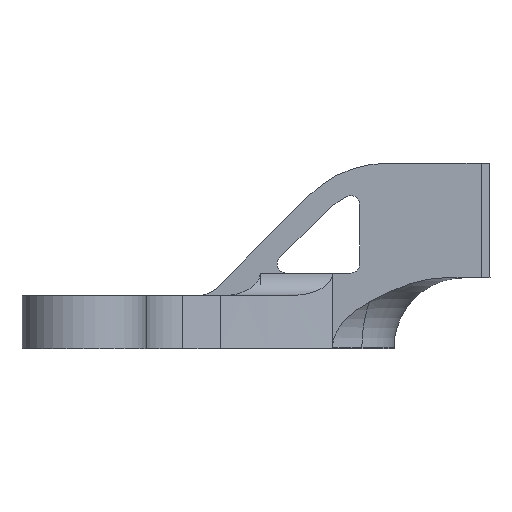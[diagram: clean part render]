
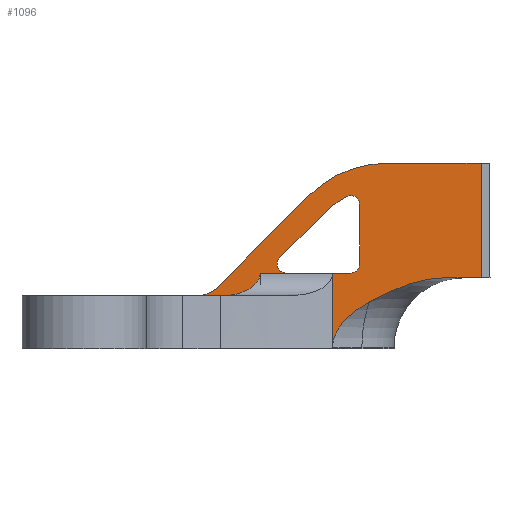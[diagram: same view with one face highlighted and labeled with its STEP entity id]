
A CAD part, front view. The second image highlights one B-rep face of the part: STEP entity #1096.
In plain terms, the highlighted planar face has unit normal (0, -1, 0).
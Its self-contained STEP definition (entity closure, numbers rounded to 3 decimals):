
#46=FACE_BOUND('',#359,.T.);
#83=LINE('',#1768,#186);
#92=LINE('',#1787,#195);
#97=LINE('',#1809,#200);
#100=LINE('',#1816,#203);
#101=LINE('',#1818,#204);
#102=LINE('',#1820,#205);
#103=LINE('',#1831,#206);
#104=LINE('',#1835,#207);
#105=LINE('',#1839,#208);
#106=LINE('',#1843,#209);
#107=LINE('',#1849,#210);
#186=VECTOR('',#1374,10.);
#195=VECTOR('',#1391,10.);
#200=VECTOR('',#1414,10.);
#203=VECTOR('',#1421,10.);
#204=VECTOR('',#1422,10.);
#205=VECTOR('',#1423,10.);
#206=VECTOR('',#1424,10.);
#207=VECTOR('',#1427,10.);
#208=VECTOR('',#1430,10.);
#209=VECTOR('',#1433,10.);
#210=VECTOR('',#1438,10.);
#267=PLANE('',#1203);
#298=FACE_OUTER_BOUND('',#358,.T.);
#358=EDGE_LOOP('',(#859,#860,#861,#862,#863,#864,#865,#866,#867,#868,#869,
#870));
#359=EDGE_LOOP('',(#871,#872,#873,#874,#875,#876,#877));
#440=CIRCLE('',#1204,6.25);
#441=CIRCLE('',#1205,1.6);
#442=CIRCLE('',#1206,0.5);
#443=CIRCLE('',#1207,4.934);
#444=CIRCLE('',#1208,0.5);
#445=CIRCLE('',#1209,0.5);
#464=B_SPLINE_CURVE_WITH_KNOTS('',3,(#1633,#1634,#1635,#1636,#1637,#1638,
#1639,#1640,#1641,#1642),.UNSPECIFIED.,.F.,.F.,(4,2,2,2,4),(1.861,
1.985,2.109,2.251,2.286),
 .UNSPECIFIED.);
#466=B_SPLINE_CURVE_WITH_KNOTS('',3,(#1821,#1822,#1823,#1824,#1825,#1826,
#1827,#1828,#1829,#1830),.UNSPECIFIED.,.F.,.F.,(4,2,2,2,4),(4.214,
4.266,4.435,4.493,4.545),
 .UNSPECIFIED.);
#471=VERTEX_POINT('',#1630);
#472=VERTEX_POINT('',#1632);
#495=VERTEX_POINT('',#1691);
#527=VERTEX_POINT('',#1765);
#528=VERTEX_POINT('',#1767);
#534=VERTEX_POINT('',#1785);
#542=VERTEX_POINT('',#1807);
#544=VERTEX_POINT('',#1815);
#545=VERTEX_POINT('',#1817);
#546=VERTEX_POINT('',#1819);
#547=VERTEX_POINT('',#1832);
#548=VERTEX_POINT('',#1834);
#549=VERTEX_POINT('',#1837);
#550=VERTEX_POINT('',#1838);
#551=VERTEX_POINT('',#1840);
#552=VERTEX_POINT('',#1842);
#553=VERTEX_POINT('',#1844);
#554=VERTEX_POINT('',#1846);
#555=VERTEX_POINT('',#1848);
#582=EDGE_CURVE('',#472,#471,#464,.F.);
#644=EDGE_CURVE('',#527,#528,#83,.T.);
#654=EDGE_CURVE('',#471,#534,#92,.T.);
#665=EDGE_CURVE('',#542,#495,#97,.T.);
#668=EDGE_CURVE('',#542,#544,#100,.F.);
#669=EDGE_CURVE('',#545,#544,#101,.T.);
#670=EDGE_CURVE('',#546,#545,#102,.F.);
#671=EDGE_CURVE('',#546,#472,#466,.F.);
#672=EDGE_CURVE('',#528,#534,#103,.T.);
#673=EDGE_CURVE('',#547,#527,#440,.T.);
#674=EDGE_CURVE('',#548,#547,#104,.T.);
#675=EDGE_CURVE('',#495,#548,#441,.T.);
#676=EDGE_CURVE('',#549,#550,#105,.T.);
#677=EDGE_CURVE('',#551,#550,#442,.T.);
#678=EDGE_CURVE('',#551,#552,#106,.T.);
#679=EDGE_CURVE('',#552,#553,#443,.T.);
#680=EDGE_CURVE('',#554,#553,#444,.T.);
#681=EDGE_CURVE('',#554,#555,#107,.T.);
#682=EDGE_CURVE('',#549,#555,#445,.T.);
#859=ORIENTED_EDGE('',*,*,#665,.F.);
#860=ORIENTED_EDGE('',*,*,#668,.T.);
#861=ORIENTED_EDGE('',*,*,#669,.F.);
#862=ORIENTED_EDGE('',*,*,#670,.F.);
#863=ORIENTED_EDGE('',*,*,#671,.T.);
#864=ORIENTED_EDGE('',*,*,#582,.T.);
#865=ORIENTED_EDGE('',*,*,#654,.T.);
#866=ORIENTED_EDGE('',*,*,#672,.F.);
#867=ORIENTED_EDGE('',*,*,#644,.F.);
#868=ORIENTED_EDGE('',*,*,#673,.F.);
#869=ORIENTED_EDGE('',*,*,#674,.F.);
#870=ORIENTED_EDGE('',*,*,#675,.F.);
#871=ORIENTED_EDGE('',*,*,#676,.T.);
#872=ORIENTED_EDGE('',*,*,#677,.F.);
#873=ORIENTED_EDGE('',*,*,#678,.T.);
#874=ORIENTED_EDGE('',*,*,#679,.T.);
#875=ORIENTED_EDGE('',*,*,#680,.F.);
#876=ORIENTED_EDGE('',*,*,#681,.T.);
#877=ORIENTED_EDGE('',*,*,#682,.F.);
#1096=ADVANCED_FACE('',(#298,#46),#267,.F.);
#1203=AXIS2_PLACEMENT_3D('',#1814,#1419,#1420);
#1204=AXIS2_PLACEMENT_3D('',#1833,#1425,#1426);
#1205=AXIS2_PLACEMENT_3D('',#1836,#1428,#1429);
#1206=AXIS2_PLACEMENT_3D('',#1841,#1431,#1432);
#1207=AXIS2_PLACEMENT_3D('',#1845,#1434,#1435);
#1208=AXIS2_PLACEMENT_3D('',#1847,#1436,#1437);
#1209=AXIS2_PLACEMENT_3D('',#1850,#1439,#1440);
#1374=DIRECTION('',(1.,0.,0.));
#1391=DIRECTION('',(1.,0.,0.));
#1414=DIRECTION('',(-1.,0.,0.));
#1419=DIRECTION('center_axis',(0.,1.,0.));
#1420=DIRECTION('ref_axis',(1.,0.,0.));
#1421=DIRECTION('',(0.,0.,-1.));
#1422=DIRECTION('',(-1.,0.,0.));
#1423=DIRECTION('',(0.,0.,-1.));
#1424=DIRECTION('',(0.,0.,-1.));
#1425=DIRECTION('center_axis',(0.,1.,0.));
#1426=DIRECTION('ref_axis',(-0.383,0.,0.924));
#1427=DIRECTION('',(0.707,0.,0.707));
#1428=DIRECTION('center_axis',(0.,-1.,0.));
#1429=DIRECTION('ref_axis',(0.633,0.,-0.774));
#1430=DIRECTION('',(-1.,0.,0.));
#1431=DIRECTION('center_axis',(0.,-1.,0.));
#1432=DIRECTION('ref_axis',(-0.924,0.,-0.383));
#1433=DIRECTION('',(0.707,0.,0.707));
#1434=DIRECTION('center_axis',(0.,1.,0.));
#1435=DIRECTION('ref_axis',(0.,0.,1.));
#1436=DIRECTION('center_axis',(0.,-1.,0.));
#1437=DIRECTION('ref_axis',(0.517,0.,0.856));
#1438=DIRECTION('',(0.,0.,-1.));
#1439=DIRECTION('center_axis',(0.,-1.,0.));
#1440=DIRECTION('ref_axis',(0.707,0.,-0.707));
#1630=CARTESIAN_POINT('',(442.457,32.5,63.2));
#1632=CARTESIAN_POINT('',(438.212,32.5,61.84));
#1633=CARTESIAN_POINT('Ctrl Pts',(442.457,32.5,63.2));
#1634=CARTESIAN_POINT('Ctrl Pts',(442.043,32.5,63.2));
#1635=CARTESIAN_POINT('Ctrl Pts',(441.593,32.5,63.15));
#1636=CARTESIAN_POINT('Ctrl Pts',(440.711,32.5,62.954));
#1637=CARTESIAN_POINT('Ctrl Pts',(440.279,32.5,62.81));
#1638=CARTESIAN_POINT('Ctrl Pts',(439.459,32.5,62.479));
#1639=CARTESIAN_POINT('Ctrl Pts',(438.953,32.5,62.228));
#1640=CARTESIAN_POINT('Ctrl Pts',(438.431,32.5,61.955));
#1641=CARTESIAN_POINT('Ctrl Pts',(438.323,32.5,61.898));
#1642=CARTESIAN_POINT('Ctrl Pts',(438.212,32.5,61.84));
#1691=CARTESIAN_POINT('',(428.503,32.5,62.2));
#1765=CARTESIAN_POINT('',(439.205,32.5,69.661));
#1767=CARTESIAN_POINT('',(444.5,32.5,69.661));
#1768=CARTESIAN_POINT('',(431.946,32.5,69.661));
#1785=CARTESIAN_POINT('',(444.5,32.5,63.2));
#1787=CARTESIAN_POINT('',(435.751,32.5,63.2));
#1807=CARTESIAN_POINT('',(432.026,32.5,62.2));
#1809=CARTESIAN_POINT('',(425.414,32.5,62.2));
#1814=CARTESIAN_POINT('Origin',(426.503,32.5,62.2));
#1815=CARTESIAN_POINT('',(432.026,32.5,63.45));
#1816=CARTESIAN_POINT('',(432.026,32.5,62.2));
#1817=CARTESIAN_POINT('',(436.119,32.5,63.45));
#1818=CARTESIAN_POINT('',(429.151,32.5,63.45));
#1819=CARTESIAN_POINT('',(436.119,32.5,59.25));
#1820=CARTESIAN_POINT('',(436.119,32.5,59.2));
#1821=CARTESIAN_POINT('Ctrl Pts',(438.212,32.5,61.84));
#1822=CARTESIAN_POINT('Ctrl Pts',(438.05,32.5,61.756));
#1823=CARTESIAN_POINT('Ctrl Pts',(437.894,32.5,61.667));
#1824=CARTESIAN_POINT('Ctrl Pts',(437.27,32.5,61.274));
#1825=CARTESIAN_POINT('Ctrl Pts',(436.755,32.5,60.836));
#1826=CARTESIAN_POINT('Ctrl Pts',(436.353,32.5,60.192));
#1827=CARTESIAN_POINT('Ctrl Pts',(436.254,32.5,59.98));
#1828=CARTESIAN_POINT('Ctrl Pts',(436.15,32.5,59.628));
#1829=CARTESIAN_POINT('Ctrl Pts',(436.119,32.5,59.423));
#1830=CARTESIAN_POINT('Ctrl Pts',(436.119,32.5,59.25));
#1831=CARTESIAN_POINT('',(444.5,32.5,62.7));
#1832=CARTESIAN_POINT('',(434.785,32.5,67.831));
#1833=CARTESIAN_POINT('Origin',(439.205,32.5,63.411));
#1834=CARTESIAN_POINT('',(429.516,32.5,62.561));
#1835=CARTESIAN_POINT('',(430.447,32.5,63.493));
#1836=CARTESIAN_POINT('Origin',(428.503,32.5,63.8));
#1837=CARTESIAN_POINT('',(437.143,32.5,63.466));
#1838=CARTESIAN_POINT('',(433.489,32.5,63.466));
#1839=CARTESIAN_POINT('',(432.073,32.5,63.466));
#1840=CARTESIAN_POINT('',(433.135,32.5,64.32));
#1841=CARTESIAN_POINT('Origin',(433.489,32.5,63.966));
#1842=CARTESIAN_POINT('',(435.716,32.5,66.9));
#1843=CARTESIAN_POINT('',(431.17,32.5,62.355));
#1844=CARTESIAN_POINT('',(436.911,32.5,67.78));
#1845=CARTESIAN_POINT('Origin',(439.205,32.5,63.411));
#1846=CARTESIAN_POINT('',(437.643,32.5,67.337));
#1847=CARTESIAN_POINT('Origin',(437.143,32.5,67.337));
#1848=CARTESIAN_POINT('',(437.643,32.5,63.966));
#1849=CARTESIAN_POINT('',(437.643,32.5,65.146));
#1850=CARTESIAN_POINT('Origin',(437.143,32.5,63.966));
